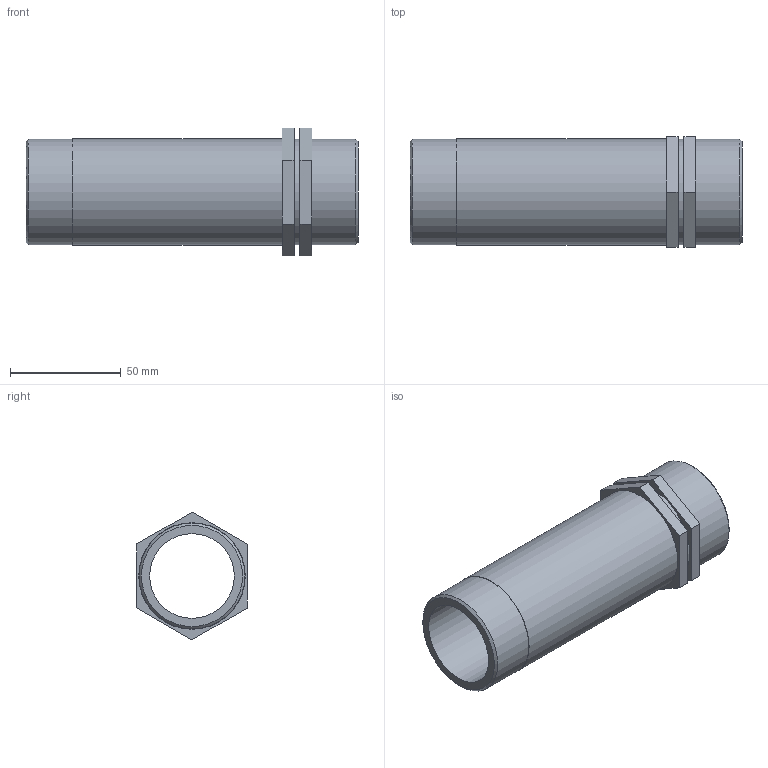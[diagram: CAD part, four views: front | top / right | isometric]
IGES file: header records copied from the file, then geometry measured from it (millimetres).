
Global section: file name: 051607015_0516070150A.ipt; native system: Autodesk Inventor 2015; preprocessor: unknown; author: KIM; date: 20170618.093326; units: millimetre
Bounding box: 150 x 50.08 x 57.73 mm (x, y, z)
Volume: 102904.6 mm3; surface area: 43470 mm2
Topology: 1 solids, 1 shells, 26 faces, 57 edges, 38 vertices
Faces by surface type: plane 19, cylinder 4, cone 2, revolution 1
Full cylindrical faces by diameter (mm): 47.803 x3, 48.12 x1
